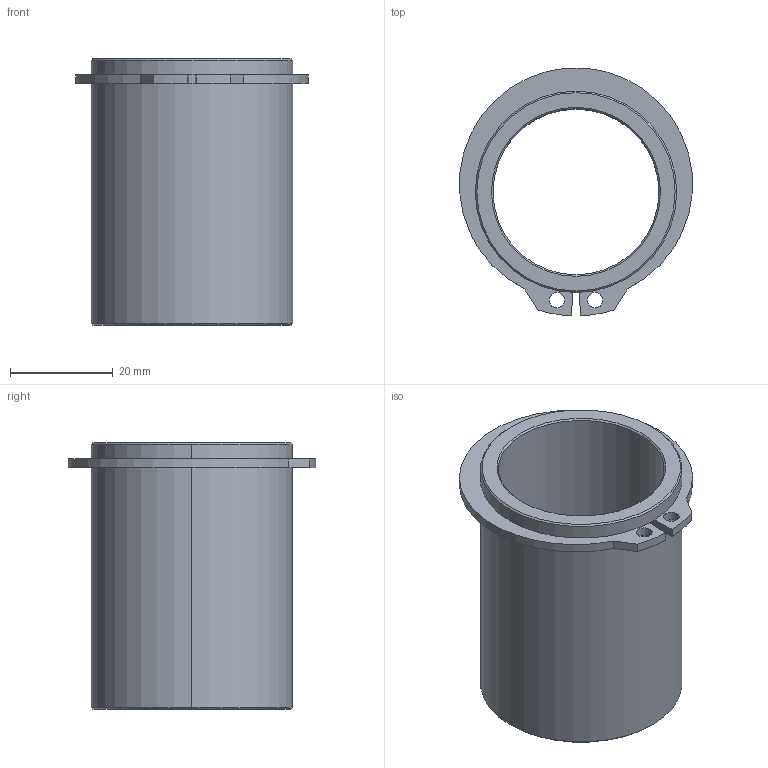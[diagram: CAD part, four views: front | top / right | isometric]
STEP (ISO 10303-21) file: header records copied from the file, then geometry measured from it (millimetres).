
FILE_DESCRIPTION((''),'2;1');
FILE_NAME('C13_032_052.stp','2008-12-17T15:08:38',(''),(''),'Mechanical Desktop 2009','Mechanical Desktop 2009',', , ');
FILE_SCHEMA(('CONFIG_CONTROL_DESIGN'));
Length unit declared in the file: millimetre
Products named in the file (2): Product; blmdl1
Assembly tree (1 placements, depth 2):
  Product
    blmdl1
Bounding box: 45.34 x 48.28 x 52 mm (x, y, z)
Volume: 20919.9 mm3; surface area: 14229 mm2
Topology: 2 solids, 2 shells, 34 faces, 76 edges, 48 vertices
Faces by surface type: cylinder 16, plane 10, cone 8
Entity records: 1075 total; most frequent: DIRECTION 188, CARTESIAN_POINT 160, ORIENTED_EDGE 152, AXIS2_PLACEMENT_3D 76, EDGE_CURVE 76, VERTEX_POINT 48, EDGE_LOOP 42, CIRCLE 40
